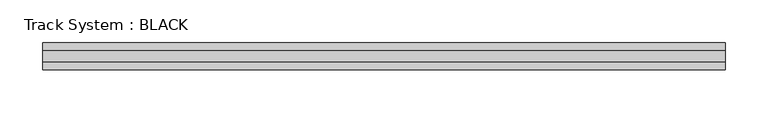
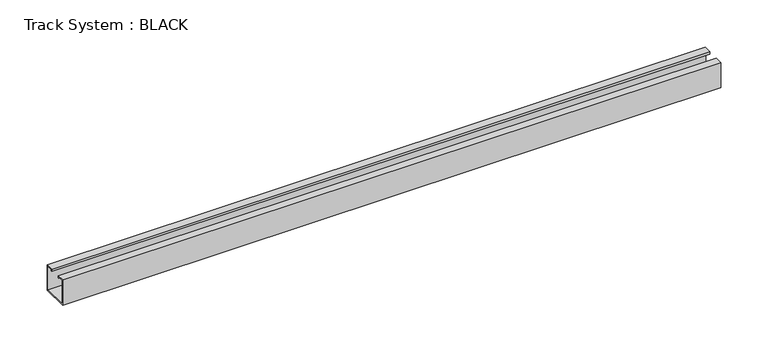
"""IFC4 building model written with IfcOpenShell, lengths in millimetres: proxy geometry, Track System : BLACK."""

from ifc_helpers import new_model, si_unit, frame, origin, place, context, project, spatial, polyline, outline, extrude, source, transform, mapped, element, save


def track_system_black_dd8d3bd6(model_context):
    return source(origin(), model_context, "Body", "SweptSolid", [
        extrude(outline(polyline([(-7.0, 32.5), (-7.0, 29.5366355), (-8.0, 29.5366355), (-8.0, 31.5), (-14.9857524, 31.5), (-14.9857524, 1.0), (15.0, 1.0), (15.0, 31.5), (8.0, 31.5), (8.0, 29.5366355), (7.0, 29.5366355), (7.0, 32.5), (16.0, 32.5), (16.0, 0.0), (-15.9857524, 0.0), (-15.9857524, 32.5), (-7.0, 32.5)])), frame((-400.0, 0.0, 0.0), z_axis=(1.0, 0.0, 0.0), x_axis=(0.0, 1.0, 0.0)), (0.0, 0.0, 1.0), 800.0),
    ])


if __name__ == "__main__":
    model = new_model("IFC4")
    model_context = context("Model", 3, world=origin())
    ifc_project = project(units=[si_unit("LENGTHUNIT", "METRE", prefix="MILLI")], contexts=[model_context])
    site = spatial("IfcSite", under=ifc_project)
    building = spatial("IfcBuilding", under=site)
    placement = place(None, origin())
    track_system_black_shape = track_system_black_dd8d3bd6(model_context)
    element("IfcBuildingElementProxy", 1, Name="Track System : BLACK", ObjectType="Track System : BLACK", at=placement, inside=building, context=model_context, shape_type="MappedRepresentation", body=[
        mapped(track_system_black_shape, transform((0.0, 0.0, 0.0), x_axis=(1.0, 0.0, 0.0), y_axis=(0.0, 1.0, 0.0), z_axis=(0.0, 0.0, 1.0))),
    ])
    save(model, "model.ifc")
